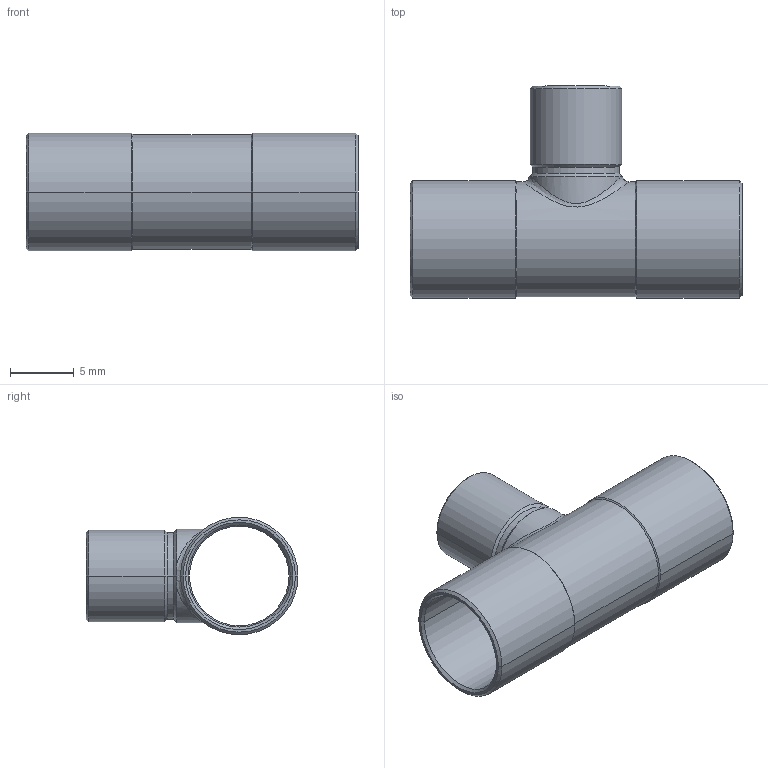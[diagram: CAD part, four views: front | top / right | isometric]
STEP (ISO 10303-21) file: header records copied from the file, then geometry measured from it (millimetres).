
FILE_DESCRIPTION((''),'2;1');
FILE_NAME('P:\Bouwmaten\z-maattekeningen 3D\5000\5130\5130868.stp','2005-10-26T11:54:04',('Kris'),(''),'Autodesk Inventor 8','Autodesk Inventor 8','');
FILE_SCHEMA(('AUTOMOTIVE_DESIGN { 1 0 10303 214 1 1 1 1 }'));
Length unit declared in the file: millimetre
Products named in the file (1): 5130868
Bounding box: 26 x 16.6 x 9.2 mm (x, y, z)
Volume: 497.2 mm3; surface area: 1703.5 mm2
Topology: 1 solids, 1 shells, 55 faces, 122 edges, 68 vertices
Faces by surface type: cone 24, cylinder 18, bspline 10, plane 3
Entity records: 2018 total; most frequent: CARTESIAN_POINT 810, DIRECTION 254, ORIENTED_EDGE 244, EDGE_CURVE 122, AXIS2_PLACEMENT_3D 102, VERTEX_POINT 68, EDGE_LOOP 58, CIRCLE 56
